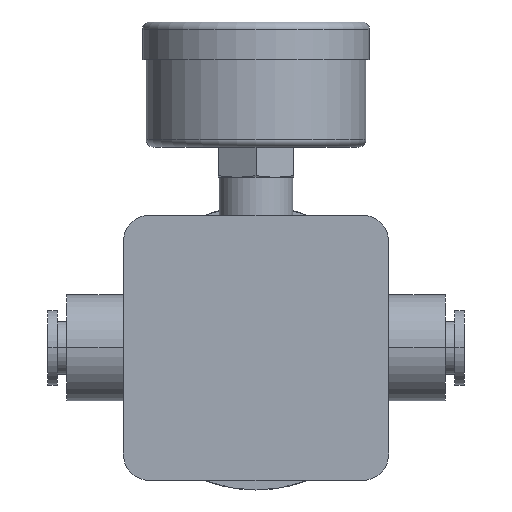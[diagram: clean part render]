
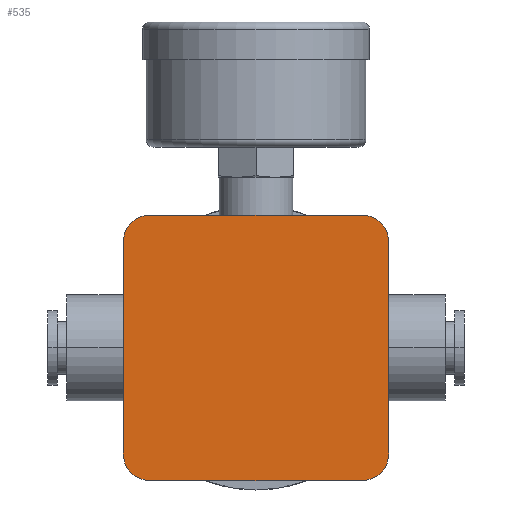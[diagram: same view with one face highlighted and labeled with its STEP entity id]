
A CAD part, front view. The second image highlights one B-rep face of the part: STEP entity #535.
In plain terms, the highlighted planar face has unit normal (0, -1, 0).
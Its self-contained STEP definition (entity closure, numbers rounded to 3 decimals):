
#31 = LINE ( 'NONE', #4628, #5545 ) ;
#491 = PLANE ( 'NONE',  #5890 ) ;
#511 = ORIENTED_EDGE ( 'NONE', *, *, #3190, .F. ) ;
#535 = ADVANCED_FACE ( 'NONE', ( #619 ), #491, .F. ) ;
#537 = VERTEX_POINT ( 'NONE', #2553 ) ;
#619 = FACE_OUTER_BOUND ( 'NONE', #3933, .T. ) ;
#638 = VECTOR ( 'NONE', #6122, 1000. ) ;
#726 = ORIENTED_EDGE ( 'NONE', *, *, #8302, .F. ) ;
#736 = VECTOR ( 'NONE', #6173, 1000. ) ;
#838 = DIRECTION ( 'NONE',  ( 1., 0., 0. ) ) ;
#853 = CARTESIAN_POINT ( 'NONE',  ( -14., -21., 17.5 ) ) ;
#923 = ORIENTED_EDGE ( 'NONE', *, *, #3477, .F. ) ;
#930 = CARTESIAN_POINT ( 'NONE',  ( -14., -21., 17.5 ) ) ;
#1158 = CARTESIAN_POINT ( 'NONE',  ( -14., -21., -17.5 ) ) ;
#1353 = AXIS2_PLACEMENT_3D ( 'NONE', #5344, #1484, #838 ) ;
#1467 = CARTESIAN_POINT ( 'NONE',  ( 14., -21., 14. ) ) ;
#1484 = DIRECTION ( 'NONE',  ( 0., 1., 0. ) ) ;
#1487 = EDGE_CURVE ( 'NONE', #2057, #4007, #2172, .T. ) ;
#1602 = AXIS2_PLACEMENT_3D ( 'NONE', #1647, #6796, #3494 ) ;
#1647 = CARTESIAN_POINT ( 'NONE',  ( -14., -21., -14. ) ) ;
#1771 = ORIENTED_EDGE ( 'NONE', *, *, #7097, .F. ) ;
#1781 = DIRECTION ( 'NONE',  ( -1., 0., 0. ) ) ;
#1910 = DIRECTION ( 'NONE',  ( 0., 1., 0. ) ) ;
#1966 = DIRECTION ( 'NONE',  ( 0., 0., -1. ) ) ;
#2057 = VERTEX_POINT ( 'NONE', #6196 ) ;
#2172 = CIRCLE ( 'NONE', #1353, 3.5 ) ;
#2295 = DIRECTION ( 'NONE',  ( 0., 1., 0. ) ) ;
#2303 = LINE ( 'NONE', #7068, #4862 ) ;
#2326 = DIRECTION ( 'NONE',  ( 1., 0., 0. ) ) ;
#2357 = CIRCLE ( 'NONE', #6490, 3.5 ) ;
#2448 = VERTEX_POINT ( 'NONE', #1158 ) ;
#2475 = CARTESIAN_POINT ( 'NONE',  ( -17.5, -21., -14. ) ) ;
#2553 = CARTESIAN_POINT ( 'NONE',  ( 14., -21., -17.5 ) ) ;
#2785 = VERTEX_POINT ( 'NONE', #2475 ) ;
#2970 = VERTEX_POINT ( 'NONE', #3331 ) ;
#3025 = CARTESIAN_POINT ( 'NONE',  ( 14., -21., -14. ) ) ;
#3120 = DIRECTION ( 'NONE',  ( 1., 0., 0. ) ) ;
#3190 = EDGE_CURVE ( 'NONE', #2970, #537, #2357, .T. ) ;
#3331 = CARTESIAN_POINT ( 'NONE',  ( 17.5, -21., -14. ) ) ;
#3477 = EDGE_CURVE ( 'NONE', #7901, #7687, #3997, .T. ) ;
#3494 = DIRECTION ( 'NONE',  ( 1., 0., 0. ) ) ;
#3616 = DIRECTION ( 'NONE',  ( 0., 1., 0. ) ) ;
#3933 = EDGE_LOOP ( 'NONE', ( #5195, #6604, #511, #1771, #923, #726, #6400, #5482 ) ) ;
#3997 = CIRCLE ( 'NONE', #6600, 3.5 ) ;
#4007 = VERTEX_POINT ( 'NONE', #853 ) ;
#4018 = LINE ( 'NONE', #930, #736 ) ;
#4137 = LINE ( 'NONE', #6753, #638 ) ;
#4421 = EDGE_CURVE ( 'NONE', #2448, #2785, #7631, .T. ) ;
#4474 = EDGE_CURVE ( 'NONE', #2785, #2057, #4137, .T. ) ;
#4628 = CARTESIAN_POINT ( 'NONE',  ( 17.5, -21., 14. ) ) ;
#4862 = VECTOR ( 'NONE', #1781, 1000. ) ;
#5183 = CARTESIAN_POINT ( 'NONE',  ( 17.5, -21., 14. ) ) ;
#5195 = ORIENTED_EDGE ( 'NONE', *, *, #4421, .F. ) ;
#5315 = EDGE_CURVE ( 'NONE', #537, #2448, #2303, .T. ) ;
#5344 = CARTESIAN_POINT ( 'NONE',  ( -14., -21., 14. ) ) ;
#5482 = ORIENTED_EDGE ( 'NONE', *, *, #4474, .F. ) ;
#5545 = VECTOR ( 'NONE', #1966, 1000. ) ;
#5560 = DIRECTION ( 'NONE',  ( 1., 0., 0. ) ) ;
#5890 = AXIS2_PLACEMENT_3D ( 'NONE', #5901, #1910, #3120 ) ;
#5901 = CARTESIAN_POINT ( 'NONE',  ( -14., -21., -14. ) ) ;
#6122 = DIRECTION ( 'NONE',  ( 0., 0., 1. ) ) ;
#6173 = DIRECTION ( 'NONE',  ( 1., 0., 0. ) ) ;
#6196 = CARTESIAN_POINT ( 'NONE',  ( -17.5, -21., 14. ) ) ;
#6400 = ORIENTED_EDGE ( 'NONE', *, *, #1487, .F. ) ;
#6490 = AXIS2_PLACEMENT_3D ( 'NONE', #3025, #2295, #5560 ) ;
#6600 = AXIS2_PLACEMENT_3D ( 'NONE', #1467, #3616, #2326 ) ;
#6604 = ORIENTED_EDGE ( 'NONE', *, *, #5315, .F. ) ;
#6753 = CARTESIAN_POINT ( 'NONE',  ( -17.5, -21., -14. ) ) ;
#6796 = DIRECTION ( 'NONE',  ( 0., 1., 0. ) ) ;
#7068 = CARTESIAN_POINT ( 'NONE',  ( 14., -21., -17.5 ) ) ;
#7097 = EDGE_CURVE ( 'NONE', #7687, #2970, #31, .T. ) ;
#7463 = CARTESIAN_POINT ( 'NONE',  ( 14., -21., 17.5 ) ) ;
#7631 = CIRCLE ( 'NONE', #1602, 3.5 ) ;
#7687 = VERTEX_POINT ( 'NONE', #5183 ) ;
#7901 = VERTEX_POINT ( 'NONE', #7463 ) ;
#8302 = EDGE_CURVE ( 'NONE', #4007, #7901, #4018, .T. ) ;
